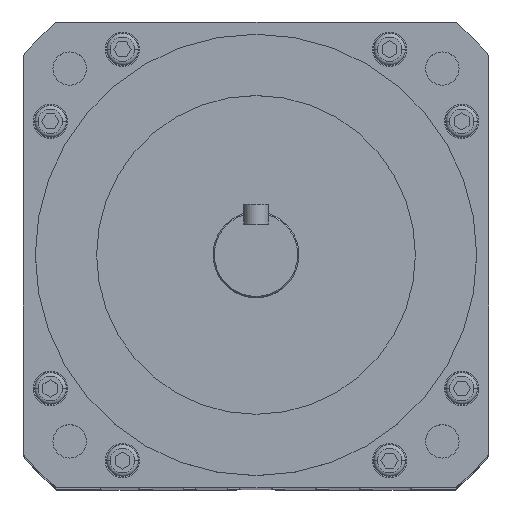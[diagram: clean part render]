
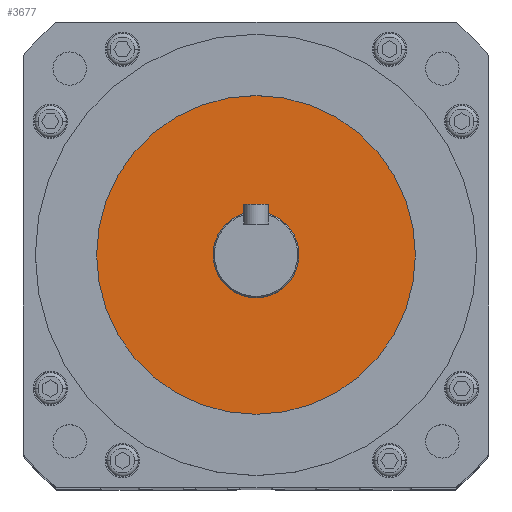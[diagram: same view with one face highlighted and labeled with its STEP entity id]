
A CAD part, top view. The second image highlights one B-rep face of the part: STEP entity #3677.
In plain terms, the highlighted planar face has unit normal (0, 0, 1).
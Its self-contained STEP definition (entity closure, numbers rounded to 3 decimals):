
#225 = CIRCLE ( 'NONE', #7503, 65. ) ;
#560 = CARTESIAN_POINT ( 'NONE',  ( 65., 0., 444. ) ) ;
#626 = EDGE_LOOP ( 'NONE', ( #9247, #994 ) ) ;
#696 = DIRECTION ( 'NONE',  ( 1., 0., 0. ) ) ;
#994 = ORIENTED_EDGE ( 'NONE', *, *, #12754, .F. ) ;
#1106 = DIRECTION ( 'NONE',  ( 1., 0., 0. ) ) ;
#1872 = CIRCLE ( 'NONE', #9881, 65. ) ;
#1973 = EDGE_CURVE ( 'NONE', #12983, #2000, #1872, .T. ) ;
#2000 = VERTEX_POINT ( 'NONE', #560 ) ;
#2522 = AXIS2_PLACEMENT_3D ( 'NONE', #3695, #3767, #14172 ) ;
#2550 = ORIENTED_EDGE ( 'NONE', *, *, #12185, .T. ) ;
#2597 = CARTESIAN_POINT ( 'NONE',  ( 0., 0., 444. ) ) ;
#2726 = CIRCLE ( 'NONE', #13645, 17.5 ) ;
#2927 = EDGE_CURVE ( 'NONE', #9032, #7800, #2726, .T. ) ;
#2965 = EDGE_LOOP ( 'NONE', ( #2550, #6649 ) ) ;
#3544 = FACE_BOUND ( 'NONE', #626, .T. ) ;
#3677 = ADVANCED_FACE ( 'NONE', ( #3544, #8158 ), #14033, .T. ) ;
#3695 = CARTESIAN_POINT ( 'NONE',  ( 0., 0., 444. ) ) ;
#3767 = DIRECTION ( 'NONE',  ( 0., 0., 1. ) ) ;
#4186 = DIRECTION ( 'NONE',  ( 0., 0., 1. ) ) ;
#4369 = CIRCLE ( 'NONE', #6304, 17.5 ) ;
#4543 = DIRECTION ( 'NONE',  ( 1., 0., 0. ) ) ;
#4966 = CARTESIAN_POINT ( 'NONE',  ( -17.5, 0., 444. ) ) ;
#5193 = CARTESIAN_POINT ( 'NONE',  ( 17.5, 0., 444. ) ) ;
#6304 = AXIS2_PLACEMENT_3D ( 'NONE', #14954, #13824, #4543 ) ;
#6649 = ORIENTED_EDGE ( 'NONE', *, *, #1973, .T. ) ;
#6865 = CARTESIAN_POINT ( 'NONE',  ( 0., 0., 444. ) ) ;
#7503 = AXIS2_PLACEMENT_3D ( 'NONE', #8584, #4186, #696 ) ;
#7800 = VERTEX_POINT ( 'NONE', #5193 ) ;
#8158 = FACE_OUTER_BOUND ( 'NONE', #2965, .T. ) ;
#8419 = DIRECTION ( 'NONE',  ( 0., 0., 1. ) ) ;
#8584 = CARTESIAN_POINT ( 'NONE',  ( 0., 0., 444. ) ) ;
#9032 = VERTEX_POINT ( 'NONE', #4966 ) ;
#9247 = ORIENTED_EDGE ( 'NONE', *, *, #2927, .F. ) ;
#9881 = AXIS2_PLACEMENT_3D ( 'NONE', #6865, #11503, #1106 ) ;
#10702 = DIRECTION ( 'NONE',  ( 1., 0., 0. ) ) ;
#11503 = DIRECTION ( 'NONE',  ( 0., 0., 1. ) ) ;
#12185 = EDGE_CURVE ( 'NONE', #2000, #12983, #225, .T. ) ;
#12754 = EDGE_CURVE ( 'NONE', #7800, #9032, #4369, .T. ) ;
#12983 = VERTEX_POINT ( 'NONE', #13192 ) ;
#13192 = CARTESIAN_POINT ( 'NONE',  ( -65., 0., 444. ) ) ;
#13645 = AXIS2_PLACEMENT_3D ( 'NONE', #2597, #8419, #10702 ) ;
#13824 = DIRECTION ( 'NONE',  ( 0., 0., 1. ) ) ;
#14033 = PLANE ( 'NONE',  #2522 ) ;
#14172 = DIRECTION ( 'NONE',  ( 1., 0., 0. ) ) ;
#14954 = CARTESIAN_POINT ( 'NONE',  ( 0., 0., 444. ) ) ;
